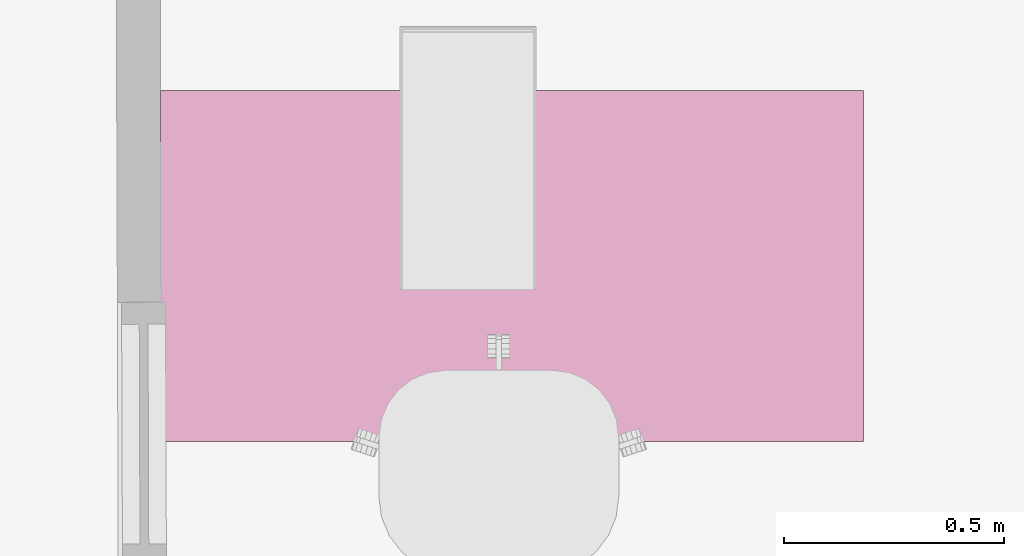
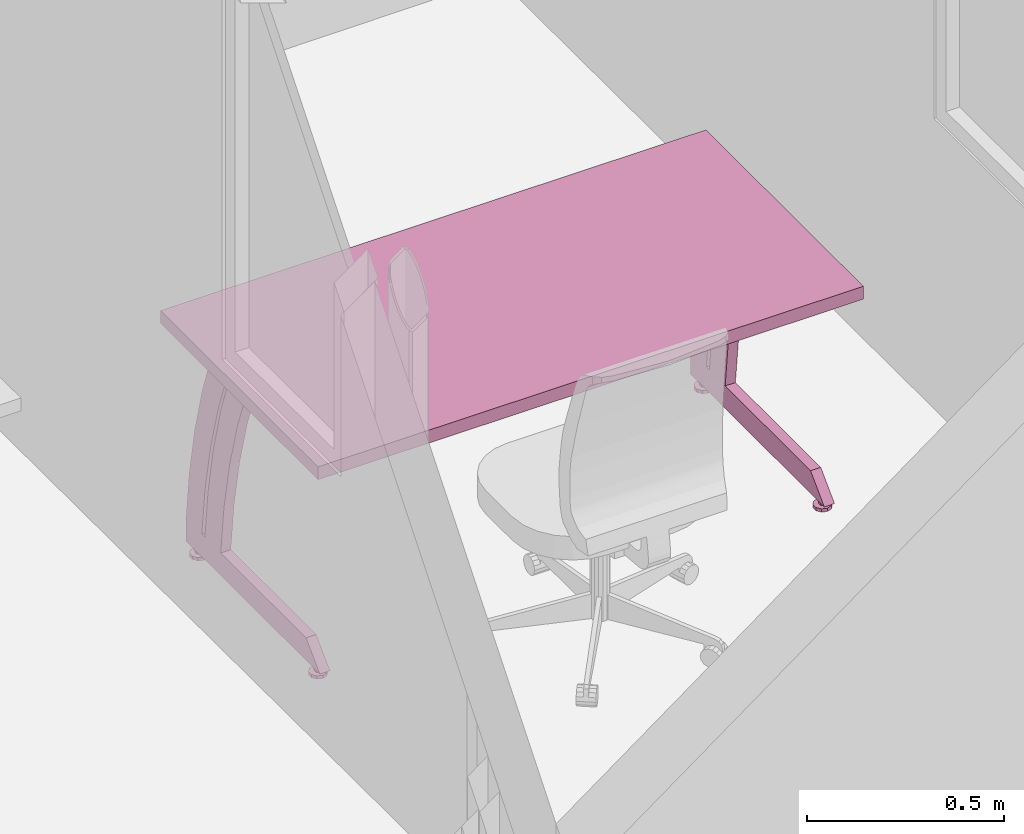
# One storey, part 83 of 128: 1 furnishing.
"""IFC2X3 building model written with IfcOpenShell, lengths in metres."""

from ifc_helpers import new_model, entity, si_unit, converted_unit, derived_unit, direction, frame, origin, place, context, subcontext, project, spatial, faceted_brep, source, transform, mapped, material, type_object, type_shapes, element, save


model = new_model("IFC2X3")

# Units and contexts
model_context = context("Model", 3, precision=1e-05, world=origin(), true_north=direction((6.123031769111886e-17, 1.0)))
body_context = subcontext(model_context, "Body", "Model", "MODEL_VIEW")
ifc_project = project(units=[si_unit("LENGTHUNIT", "METRE"), si_unit("AREAUNIT", "SQUARE_METRE"), converted_unit("PLANEANGLEUNIT", "DEGREE", entity("IfcPlaneAngleMeasure", 0.017453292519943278), si_unit("PLANEANGLEUNIT", "RADIAN"), dimensions=[0, 0, 0, 0, 0, 0, 0]), derived_unit("THERMALTRANSMITTANCEUNIT", [(si_unit("MASSUNIT", "GRAM", prefix="KILO"), 1), (si_unit("THERMODYNAMICTEMPERATUREUNIT", "KELVIN"), -1), (si_unit("TIMEUNIT", "SECOND"), -3)])], contexts=[model_context])

# Site, building, storey
site_placement = place(None, origin())
site = spatial("IfcSite", under=ifc_project, at=site_placement, Name="Default", CompositionType="ELEMENT")
building_placement = place(site_placement, origin())
building = spatial("IfcBuilding", under=site, at=building_placement, CompositionType="ELEMENT")
storey_placement = place(building_placement, origin())
storey = spatial("IfcBuildingStorey", under=building, at=storey_placement, Name="00_RDC CAF", CompositionType="ELEMENT", Elevation=2.4982504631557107e-13)

# Furnishing
ifc_material = material(Name="ARC - Mo - Blanc")
furniture_type = type_object("IfcFurnitureType", Name="Mo_Bureau:Mo_Bureau_1600x800mm", AssemblyPlace="NOTDEFINED", material=ifc_material)
shared_shape = source(origin(), body_context, "Body", "Brep", [
    faceted_brep([(0.05999999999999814, -0.6962325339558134, 0.0), (0.03622358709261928, -0.6885071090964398, 0.0), (0.04076447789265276, -0.6822571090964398, 0.0), (0.04530536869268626, -0.6760071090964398, 0.0), (0.05265268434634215, -0.6736198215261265, 0.0), (0.059999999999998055, -0.6712325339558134, 0.0), (0.06734731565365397, -0.6736198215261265, 0.0), (0.03622358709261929, -0.6962325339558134, 0.0), (0.03622358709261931, -0.7039579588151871, 0.0), (0.04076447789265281, -0.7102079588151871, 0.0), (0.045305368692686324, -0.7164579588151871, 0.0), (0.05265268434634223, -0.7188452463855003, 0.0), (0.05999999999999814, -0.7212325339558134, 0.0), (0.07469463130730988, -0.6760071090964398, 0.0), (0.07923552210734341, -0.6822571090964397, 0.0), (0.08377641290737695, -0.6885071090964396, 0.0), (0.08377641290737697, -0.6962325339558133, 0.0), (0.0673473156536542, -0.7188452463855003, 0.0), (0.07469463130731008, -0.716457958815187, 0.0), (0.07923552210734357, -0.7102079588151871, 0.0), (0.08377641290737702, -0.703957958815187, 0.0), (0.05999999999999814, -0.6962325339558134, 0.024999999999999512), (0.0599999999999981, -0.6862325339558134, 0.024999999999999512), (0.05133974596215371, -0.6912325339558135, 0.024999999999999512), (0.05133974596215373, -0.7012325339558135, 0.024999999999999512), (0.05999999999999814, -0.7062325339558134, 0.024999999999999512), (0.06866025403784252, -0.6912325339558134, 0.024999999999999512), (0.06866025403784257, -0.7012325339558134, 0.024999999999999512), (0.05133974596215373, -0.7012325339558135, 0.010000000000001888), (0.05999999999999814, -0.7062325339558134, 0.010000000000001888), (0.05133974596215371, -0.6912325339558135, 0.010000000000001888), (0.05999999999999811, -0.6862325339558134, 0.010000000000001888), (0.06866025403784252, -0.6912325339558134, 0.010000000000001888), (0.06866025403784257, -0.7012325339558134, 0.010000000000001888), (0.05999999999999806, -0.6712325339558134, 0.010000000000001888), (0.0555460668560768, -0.6726797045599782, 0.010000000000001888), (0.051092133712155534, -0.6741268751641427, 0.010000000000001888), (0.04530536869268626, -0.6760071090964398, 0.010000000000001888), (0.06734731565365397, -0.6736198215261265, 0.010000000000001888), (0.07469463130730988, -0.6760071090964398, 0.010000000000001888), (0.07923552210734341, -0.6822571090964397, 0.010000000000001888), (0.08377641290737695, -0.6885071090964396, 0.010000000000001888), (0.08377641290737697, -0.6962325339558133, 0.010000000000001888), (0.08377641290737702, -0.703957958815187, 0.010000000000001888), (0.07923552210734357, -0.7102079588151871, 0.010000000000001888), (0.07469463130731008, -0.716457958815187, 0.010000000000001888), (0.06890786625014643, -0.7183381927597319, 0.010000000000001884), (0.06445393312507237, -0.7197853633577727, 0.010000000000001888), (0.05999999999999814, -0.7212325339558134, 0.010000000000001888), (0.05265268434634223, -0.7188452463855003, 0.010000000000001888), (0.045305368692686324, -0.7164579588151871, 0.010000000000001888), (0.03622358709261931, -0.7039579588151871, 0.010000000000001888), (0.04076447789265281, -0.7102079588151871, 0.010000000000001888), (0.04076447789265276, -0.6822571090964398, 0.010000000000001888), (0.03622358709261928, -0.6885071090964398, 0.010000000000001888), (0.03622358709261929, -0.6962325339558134, 0.010000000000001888)], [[[0, 1, 2]], [[0, 2, 3]], [[0, 3, 4]], [[0, 4, 5]], [[0, 5, 6]], [[0, 7, 1]], [[0, 8, 7]], [[0, 9, 8]], [[0, 10, 9]], [[0, 11, 10]], [[0, 12, 11]], [[0, 6, 13]], [[0, 13, 14]], [[0, 14, 15]], [[0, 15, 16]], [[0, 17, 12]], [[0, 18, 17]], [[0, 19, 18]], [[0, 20, 19]], [[0, 16, 20]], [[21, 22, 23]], [[23, 24, 21]], [[24, 25, 21]], [[21, 26, 22]], [[25, 27, 21]], [[26, 21, 27]], [[25, 24, 28, 29]], [[24, 23, 30, 28]], [[23, 22, 31, 30]], [[22, 26, 32, 31]], [[26, 27, 33, 32]], [[27, 25, 29, 33]], [[31, 34, 35]], [[31, 35, 36]], [[31, 36, 37]], [[31, 37, 30]], [[31, 38, 34]], [[31, 39, 38]], [[32, 39, 31]], [[32, 40, 39]], [[32, 41, 40]], [[32, 42, 41]], [[32, 43, 42]], [[32, 33, 43]], [[33, 44, 43]], [[33, 45, 44]], [[33, 29, 45]], [[29, 46, 45]], [[29, 47, 46]], [[29, 48, 47]], [[29, 49, 48]], [[29, 50, 49]], [[29, 28, 50]], [[30, 51, 28]], [[28, 51, 52]], [[28, 52, 50]], [[30, 37, 53]], [[30, 53, 54]], [[30, 54, 55]], [[30, 55, 51]], [[11, 12, 48, 49, 50, 10]], [[8, 9, 10, 50, 52, 51]], [[7, 8, 51, 55, 54, 1]], [[3, 37, 36, 35, 34, 5, 4]], [[54, 53, 37, 3, 2, 1]], [[6, 5, 34, 38, 39, 13]], [[15, 14, 13, 39, 40, 41]], [[16, 15, 41, 42, 43, 20]], [[18, 45, 46, 47, 48, 12, 17]], [[43, 44, 45, 18, 19, 20]]]),
    faceted_brep([(0.05999999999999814, -0.09132706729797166, 0.0), (0.03622358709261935, -0.08360164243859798, 0.0), (0.04076447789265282, -0.07735164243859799, 0.0), (0.0453053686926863, -0.07110164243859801, 0.0), (0.05265268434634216, -0.06871435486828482, 0.0), (0.059999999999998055, -0.06632706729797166, 0.0), (0.06734731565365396, -0.06871435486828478, 0.0), (0.03622358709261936, -0.09132706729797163, 0.0), (0.03622358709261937, -0.09905249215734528, 0.0), (0.04076447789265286, -0.10530249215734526, 0.0), (0.04530536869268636, -0.11155249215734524, 0.0), (0.05265268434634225, -0.11393977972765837, 0.0), (0.05999999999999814, -0.11632706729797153, 0.0), (0.07469463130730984, -0.0711016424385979, 0.0), (0.07923552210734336, -0.07735164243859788, 0.0), (0.08377641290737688, -0.08360164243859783, 0.0), (0.0837764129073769, -0.09132706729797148, 0.0), (0.06734731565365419, -0.11393977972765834, 0.0), (0.07469463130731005, -0.11155249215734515, 0.0), (0.07923552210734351, -0.10530249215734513, 0.0), (0.08377641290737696, -0.09905249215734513, 0.0), (0.05999999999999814, -0.09132706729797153, 0.024999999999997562), (0.0599999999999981, -0.08132706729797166, 0.024999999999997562), (0.05133974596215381, -0.08632706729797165, 0.024999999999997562), (0.05133974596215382, -0.09632706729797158, 0.024999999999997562), (0.05999999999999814, -0.10132706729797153, 0.024999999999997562), (0.06866025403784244, -0.0863270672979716, 0.024999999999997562), (0.06866025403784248, -0.09632706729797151, 0.024999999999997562), (0.05133974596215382, -0.09632706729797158, 0.009999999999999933), (0.05999999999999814, -0.10132706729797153, 0.009999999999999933), (0.05133974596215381, -0.08632706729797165, 0.009999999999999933), (0.05999999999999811, -0.08132706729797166, 0.009999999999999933), (0.06866025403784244, -0.0863270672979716, 0.009999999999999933), (0.06866025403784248, -0.09632706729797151, 0.009999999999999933), (0.05999999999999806, -0.06632706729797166, 0.009999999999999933), (0.055546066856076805, -0.06777423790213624, 0.00999999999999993), (0.051092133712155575, -0.06922140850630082, 0.00999999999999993), (0.0453053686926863, -0.07110164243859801, 0.009999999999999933), (0.06734731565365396, -0.06871435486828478, 0.00999999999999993), (0.07469463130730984, -0.0711016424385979, 0.009999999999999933), (0.07923552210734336, -0.07735164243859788, 0.00999999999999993), (0.08377641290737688, -0.08360164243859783, 0.009999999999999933), (0.0837764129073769, -0.09132706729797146, 0.00999999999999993), (0.08377641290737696, -0.09905249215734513, 0.009999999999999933), (0.07923552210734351, -0.10530249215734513, 0.00999999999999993), (0.07469463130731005, -0.11155249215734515, 0.009999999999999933), (0.0689078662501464, -0.11343272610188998, 0.00999999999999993), (0.06445393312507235, -0.11487989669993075, 0.00999999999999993), (0.05999999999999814, -0.11632706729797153, 0.009999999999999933), (0.05265268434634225, -0.11393977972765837, 0.00999999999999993), (0.04530536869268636, -0.11155249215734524, 0.009999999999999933), (0.03622358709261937, -0.09905249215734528, 0.009999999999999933), (0.04076447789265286, -0.10530249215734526, 0.00999999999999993), (0.04076447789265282, -0.07735164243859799, 0.00999999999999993), (0.03622358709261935, -0.08360164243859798, 0.009999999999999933), (0.03622358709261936, -0.09132706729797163, 0.00999999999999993)], [[[0, 1, 2]], [[0, 2, 3]], [[0, 3, 4]], [[0, 4, 5]], [[0, 5, 6]], [[0, 7, 1]], [[0, 8, 7]], [[0, 9, 8]], [[0, 10, 9]], [[0, 11, 10]], [[0, 12, 11]], [[0, 6, 13]], [[0, 13, 14]], [[0, 14, 15]], [[0, 15, 16]], [[0, 17, 12]], [[0, 18, 17]], [[0, 19, 18]], [[0, 20, 19]], [[0, 16, 20]], [[21, 22, 23]], [[23, 24, 21]], [[24, 25, 21]], [[21, 26, 22]], [[25, 27, 21]], [[26, 21, 27]], [[25, 24, 28, 29]], [[24, 23, 30, 28]], [[23, 22, 31, 30]], [[22, 26, 32, 31]], [[26, 27, 33, 32]], [[27, 25, 29, 33]], [[31, 34, 35]], [[31, 35, 36]], [[31, 36, 37]], [[31, 37, 30]], [[31, 38, 34]], [[31, 39, 38]], [[32, 39, 31]], [[32, 40, 39]], [[32, 41, 40]], [[32, 42, 41]], [[32, 43, 42]], [[32, 33, 43]], [[33, 44, 43]], [[33, 45, 44]], [[33, 29, 45]], [[29, 46, 45]], [[29, 47, 46]], [[29, 48, 47]], [[29, 49, 48]], [[29, 50, 49]], [[29, 28, 50]], [[30, 51, 28]], [[28, 51, 52]], [[28, 52, 50]], [[30, 37, 53]], [[30, 53, 54]], [[30, 54, 55]], [[30, 55, 51]], [[11, 12, 48, 49, 50, 10]], [[8, 9, 10, 50, 52, 51]], [[7, 8, 51, 55, 54, 1]], [[3, 37, 36, 35, 34, 5, 4]], [[54, 53, 37, 3, 2, 1]], [[6, 5, 34, 38, 39, 13]], [[15, 14, 13, 39, 40, 41]], [[16, 15, 41, 42, 43, 20]], [[18, 45, 46, 47, 48, 12, 17]], [[43, 44, 45, 18, 19, 20]]]),
    faceted_brep([(0.04499999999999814, -0.22742160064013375, 0.09500000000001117), (0.04499999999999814, -0.24409269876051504, 0.24614112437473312), (0.04499999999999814, -0.2727144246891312, 0.3954808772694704), (0.04499999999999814, -0.313105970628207, 0.542075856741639), (0.04499999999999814, -0.36501217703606, 0.684999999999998), (0.04499999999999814, -0.27887211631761, 0.6849999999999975), (0.04499999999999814, -0.22919246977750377, 0.5416912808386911), (0.04499999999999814, -0.19055436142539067, 0.39501969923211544), (0.04499999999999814, -0.1631815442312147, 0.24583462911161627), (0.04499999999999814, -0.14723253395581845, 0.09500000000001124), (0.07499999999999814, -0.3650121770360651, 0.6850000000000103), (0.07499999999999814, -0.313105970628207, 0.542075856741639), (0.07499999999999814, -0.2727144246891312, 0.3954808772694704), (0.07499999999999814, -0.24409269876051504, 0.24614112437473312), (0.07499999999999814, -0.22742160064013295, 0.09499999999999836), (0.07499999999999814, -0.14723253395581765, 0.09499999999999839), (0.07499999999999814, -0.1631815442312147, 0.24583462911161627), (0.07499999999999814, -0.19055436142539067, 0.39501969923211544), (0.07499999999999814, -0.22919246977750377, 0.5416912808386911), (0.07499999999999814, -0.2788721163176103, 0.684999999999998)], [[[0, 1, 2, 3, 4, 5, 6, 7, 8, 9]], [[10, 11, 12, 13, 14, 15, 16, 17, 18, 19]], [[10, 19, 5, 4]], [[3, 11, 10, 4]], [[2, 12, 11, 3]], [[0, 14, 13, 1]], [[12, 2, 1, 13]], [[15, 14, 0, 9]], [[8, 7, 17, 16]], [[15, 9, 8, 16]], [[6, 5, 19, 18]], [[6, 18, 17, 7]]]),
    faceted_brep([(0.04499999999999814, -0.1314216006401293, 0.09500000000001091), (0.04499999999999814, -0.1480926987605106, 0.24614112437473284), (0.04499999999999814, -0.17671442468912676, 0.3954808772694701), (0.04499999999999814, -0.21710597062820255, 0.5420758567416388), (0.04499999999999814, -0.2690121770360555, 0.6849999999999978), (0.04499999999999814, -0.18287211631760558, 0.6849999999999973), (0.04499999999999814, -0.13319246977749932, 0.5416912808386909), (0.04499999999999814, -0.09455436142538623, 0.39501969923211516), (0.04499999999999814, -0.06718154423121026, 0.24583462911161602), (0.04499999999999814, -0.05123253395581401, 0.09500000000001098), (0.07499999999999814, -0.2690121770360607, 0.6850000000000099), (0.07499999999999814, -0.21710597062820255, 0.5420758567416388), (0.07499999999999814, -0.17671442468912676, 0.3954808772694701), (0.07499999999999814, -0.1480926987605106, 0.24614112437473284), (0.07499999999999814, -0.1314216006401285, 0.09499999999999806), (0.07499999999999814, -0.051232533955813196, 0.09499999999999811), (0.07499999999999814, -0.06718154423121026, 0.24583462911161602), (0.07499999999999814, -0.09455436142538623, 0.39501969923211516), (0.07499999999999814, -0.13319246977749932, 0.5416912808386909), (0.07499999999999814, -0.18287211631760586, 0.6849999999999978)], [[[0, 1, 2, 3, 4, 5, 6, 7, 8, 9]], [[10, 11, 12, 13, 14, 15, 16, 17, 18, 19]], [[10, 19, 5, 4]], [[3, 11, 10, 4]], [[2, 12, 11, 3]], [[0, 14, 13, 1]], [[12, 2, 1, 13]], [[15, 14, 0, 9]], [[8, 7, 17, 16]], [[15, 9, 8, 16]], [[6, 5, 19, 18]], [[6, 18, 17, 7]]]),
    faceted_brep([(0.04499999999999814, -0.05123253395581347, 0.024999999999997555), (0.04499999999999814, -0.7312325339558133, 0.024999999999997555), (0.04499999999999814, -0.6612325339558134, 0.09499999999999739), (0.04499999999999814, -0.05123253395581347, 0.09499999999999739), (0.07499999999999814, -0.05123253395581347, 0.024999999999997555), (0.07499999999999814, -0.05123253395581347, 0.09499999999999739), (0.07499999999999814, -0.6612325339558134, 0.09499999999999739), (0.07499999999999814, -0.7312325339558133, 0.024999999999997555)], [[[0, 1, 2, 3]], [[4, 5, 6, 7]], [[5, 4, 0, 3]], [[6, 5, 3, 2]], [[4, 7, 1, 0]], [[7, 6, 2, 1]]]),
    faceted_brep([(1.5399999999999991, -0.6962325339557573, 0.0), (1.5162235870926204, -0.6885071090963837, 0.0), (1.5207644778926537, -0.6822571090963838, 0.0), (1.5253053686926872, -0.6760071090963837, 0.0), (1.532652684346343, -0.6736198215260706, 0.0), (1.5399999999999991, -0.6712325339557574, 0.0), (1.547347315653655, -0.6736198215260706, 0.0), (1.5162235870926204, -0.6962325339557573, 0.0), (1.5162235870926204, -0.7039579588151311, 0.0), (1.5207644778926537, -0.710207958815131, 0.0), (1.5253053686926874, -0.7164579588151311, 0.0), (1.5326526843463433, -0.7188452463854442, 0.0), (1.5399999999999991, -0.7212325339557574, 0.0), (1.554694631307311, -0.6760071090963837, 0.0), (1.5592355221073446, -0.6822571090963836, 0.0), (1.563776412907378, -0.6885071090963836, 0.0), (1.563776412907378, -0.6962325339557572, 0.0), (1.5473473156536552, -0.7188452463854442, 0.0), (1.5546946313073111, -0.716457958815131, 0.0), (1.5592355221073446, -0.710207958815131, 0.0), (1.563776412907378, -0.7039579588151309, 0.0), (1.5399999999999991, -0.6962325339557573, 0.024999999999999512), (1.5399999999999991, -0.6862325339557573, 0.024999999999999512), (1.5313397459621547, -0.6912325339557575, 0.024999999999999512), (1.5313397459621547, -0.7012325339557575, 0.024999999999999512), (1.5399999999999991, -0.7062325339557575, 0.024999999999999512), (1.5486602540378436, -0.6912325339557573, 0.024999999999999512), (1.5486602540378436, -0.7012325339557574, 0.024999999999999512), (1.5313397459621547, -0.7012325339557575, 0.010000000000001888), (1.5399999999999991, -0.7062325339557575, 0.010000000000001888), (1.5313397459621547, -0.6912325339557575, 0.010000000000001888), (1.5399999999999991, -0.6862325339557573, 0.010000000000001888), (1.5486602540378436, -0.6912325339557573, 0.010000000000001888), (1.5486602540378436, -0.7012325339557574, 0.010000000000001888), (1.5399999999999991, -0.6712325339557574, 0.010000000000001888), (1.5355460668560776, -0.672679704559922, 0.010000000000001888), (1.5310921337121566, -0.6741268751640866, 0.010000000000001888), (1.5253053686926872, -0.6760071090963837, 0.010000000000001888), (1.547347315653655, -0.6736198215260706, 0.010000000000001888), (1.554694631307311, -0.6760071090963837, 0.010000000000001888), (1.5592355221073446, -0.6822571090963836, 0.010000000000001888), (1.563776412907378, -0.6885071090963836, 0.010000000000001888), (1.563776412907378, -0.6962325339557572, 0.010000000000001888), (1.563776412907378, -0.7039579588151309, 0.010000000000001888), (1.5592355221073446, -0.710207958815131, 0.010000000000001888), (1.5546946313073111, -0.716457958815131, 0.010000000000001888), (1.5489078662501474, -0.7183381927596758, 0.010000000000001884), (1.5444539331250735, -0.7197853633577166, 0.010000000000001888), (1.5399999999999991, -0.7212325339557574, 0.010000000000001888), (1.5326526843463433, -0.7188452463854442, 0.010000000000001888), (1.5253053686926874, -0.7164579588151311, 0.010000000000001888), (1.5162235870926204, -0.7039579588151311, 0.010000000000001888), (1.5207644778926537, -0.710207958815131, 0.010000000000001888), (1.5207644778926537, -0.6822571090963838, 0.010000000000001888), (1.5162235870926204, -0.6885071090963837, 0.010000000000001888), (1.5162235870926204, -0.6962325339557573, 0.010000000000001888)], [[[0, 1, 2]], [[0, 2, 3]], [[0, 3, 4]], [[0, 4, 5]], [[0, 5, 6]], [[0, 7, 1]], [[0, 8, 7]], [[0, 9, 8]], [[0, 10, 9]], [[0, 11, 10]], [[0, 12, 11]], [[0, 6, 13]], [[0, 13, 14]], [[0, 14, 15]], [[0, 15, 16]], [[0, 17, 12]], [[0, 18, 17]], [[0, 19, 18]], [[0, 20, 19]], [[0, 16, 20]], [[21, 22, 23]], [[23, 24, 21]], [[24, 25, 21]], [[21, 26, 22]], [[25, 27, 21]], [[26, 21, 27]], [[25, 24, 28, 29]], [[24, 23, 30, 28]], [[23, 22, 31, 30]], [[22, 26, 32, 31]], [[26, 27, 33, 32]], [[27, 25, 29, 33]], [[31, 34, 35]], [[31, 35, 36]], [[31, 36, 37]], [[31, 37, 30]], [[31, 38, 34]], [[31, 39, 38]], [[32, 39, 31]], [[32, 40, 39]], [[32, 41, 40]], [[32, 42, 41]], [[32, 43, 42]], [[32, 33, 43]], [[33, 44, 43]], [[33, 45, 44]], [[33, 29, 45]], [[29, 46, 45]], [[29, 47, 46]], [[29, 48, 47]], [[29, 49, 48]], [[29, 50, 49]], [[29, 28, 50]], [[30, 51, 28]], [[28, 51, 52]], [[28, 52, 50]], [[30, 37, 53]], [[30, 53, 54]], [[30, 54, 55]], [[30, 55, 51]], [[11, 12, 48, 49, 50, 10]], [[8, 9, 10, 50, 52, 51]], [[7, 8, 51, 55, 54, 1]], [[3, 37, 36, 35, 34, 5, 4]], [[54, 53, 37, 3, 2, 1]], [[6, 5, 34, 38, 39, 13]], [[15, 14, 13, 39, 40, 41]], [[16, 15, 41, 42, 43, 20]], [[18, 45, 46, 47, 48, 12, 17]], [[43, 44, 45, 18, 19, 20]]]),
    faceted_brep([(1.5399999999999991, -0.09132706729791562, 0.0), (1.5162235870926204, -0.08360164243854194, 0.0), (1.5207644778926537, -0.07735164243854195, 0.0), (1.5253053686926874, -0.07110164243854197, 0.0), (1.5326526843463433, -0.06871435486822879, 0.0), (1.5399999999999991, -0.06632706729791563, 0.0), (1.547347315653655, -0.06871435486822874, 0.0), (1.5162235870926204, -0.09132706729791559, 0.0), (1.5162235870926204, -0.09905249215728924, 0.0), (1.5207644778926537, -0.10530249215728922, 0.0), (1.5253053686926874, -0.1115524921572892, 0.0), (1.5326526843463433, -0.11393977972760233, 0.0), (1.5399999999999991, -0.11632706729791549, 0.0), (1.554694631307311, -0.07110164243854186, 0.0), (1.5592355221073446, -0.07735164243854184, 0.0), (1.563776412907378, -0.08360164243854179, 0.0), (1.563776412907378, -0.09132706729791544, 0.0), (1.5473473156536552, -0.1139397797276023, 0.0), (1.5546946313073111, -0.11155249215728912, 0.0), (1.5592355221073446, -0.1053024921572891, 0.0), (1.563776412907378, -0.09905249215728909, 0.0), (1.5399999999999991, -0.0913270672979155, 0.024999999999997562), (1.5399999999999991, -0.08132706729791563, 0.024999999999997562), (1.531339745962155, -0.08632706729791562, 0.024999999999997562), (1.531339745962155, -0.09632706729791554, 0.024999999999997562), (1.5399999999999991, -0.10132706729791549, 0.024999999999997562), (1.5486602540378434, -0.08632706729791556, 0.024999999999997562), (1.5486602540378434, -0.09632706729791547, 0.024999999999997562), (1.531339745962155, -0.09632706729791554, 0.009999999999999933), (1.5399999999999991, -0.10132706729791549, 0.009999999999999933), (1.531339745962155, -0.08632706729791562, 0.009999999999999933), (1.5399999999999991, -0.08132706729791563, 0.009999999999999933), (1.5486602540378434, -0.08632706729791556, 0.009999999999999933), (1.5486602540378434, -0.09632706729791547, 0.009999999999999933), (1.5399999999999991, -0.06632706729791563, 0.009999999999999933), (1.5355460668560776, -0.0677742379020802, 0.00999999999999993), (1.5310921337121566, -0.06922140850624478, 0.00999999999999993), (1.5253053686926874, -0.07110164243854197, 0.009999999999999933), (1.547347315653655, -0.06871435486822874, 0.00999999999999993), (1.554694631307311, -0.07110164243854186, 0.009999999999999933), (1.5592355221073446, -0.07735164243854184, 0.00999999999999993), (1.563776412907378, -0.08360164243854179, 0.009999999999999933), (1.563776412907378, -0.09132706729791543, 0.00999999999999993), (1.563776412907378, -0.09905249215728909, 0.009999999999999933), (1.5592355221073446, -0.1053024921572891, 0.00999999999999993), (1.5546946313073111, -0.11155249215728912, 0.009999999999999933), (1.5489078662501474, -0.11343272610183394, 0.00999999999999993), (1.5444539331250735, -0.11487989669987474, 0.00999999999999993), (1.5399999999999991, -0.11632706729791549, 0.009999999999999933), (1.5326526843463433, -0.11393977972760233, 0.00999999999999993), (1.5253053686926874, -0.1115524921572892, 0.009999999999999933), (1.5162235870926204, -0.09905249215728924, 0.009999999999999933), (1.5207644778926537, -0.10530249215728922, 0.00999999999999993), (1.5207644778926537, -0.07735164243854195, 0.00999999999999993), (1.5162235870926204, -0.08360164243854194, 0.009999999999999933), (1.5162235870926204, -0.09132706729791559, 0.00999999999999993)], [[[0, 1, 2]], [[0, 2, 3]], [[0, 3, 4]], [[0, 4, 5]], [[0, 5, 6]], [[0, 7, 1]], [[0, 8, 7]], [[0, 9, 8]], [[0, 10, 9]], [[0, 11, 10]], [[0, 12, 11]], [[0, 6, 13]], [[0, 13, 14]], [[0, 14, 15]], [[0, 15, 16]], [[0, 17, 12]], [[0, 18, 17]], [[0, 19, 18]], [[0, 20, 19]], [[0, 16, 20]], [[21, 22, 23]], [[23, 24, 21]], [[24, 25, 21]], [[21, 26, 22]], [[25, 27, 21]], [[26, 21, 27]], [[25, 24, 28, 29]], [[24, 23, 30, 28]], [[23, 22, 31, 30]], [[22, 26, 32, 31]], [[26, 27, 33, 32]], [[27, 25, 29, 33]], [[31, 34, 35]], [[31, 35, 36]], [[31, 36, 37]], [[31, 37, 30]], [[31, 38, 34]], [[31, 39, 38]], [[32, 39, 31]], [[32, 40, 39]], [[32, 41, 40]], [[32, 42, 41]], [[32, 43, 42]], [[32, 33, 43]], [[33, 44, 43]], [[33, 45, 44]], [[33, 29, 45]], [[29, 46, 45]], [[29, 47, 46]], [[29, 48, 47]], [[29, 49, 48]], [[29, 50, 49]], [[29, 28, 50]], [[30, 51, 28]], [[28, 51, 52]], [[28, 52, 50]], [[30, 37, 53]], [[30, 53, 54]], [[30, 54, 55]], [[30, 55, 51]], [[11, 12, 48, 49, 50, 10]], [[8, 9, 10, 50, 52, 51]], [[7, 8, 51, 55, 54, 1]], [[3, 37, 36, 35, 34, 5, 4]], [[54, 53, 37, 3, 2, 1]], [[6, 5, 34, 38, 39, 13]], [[15, 14, 13, 39, 40, 41]], [[16, 15, 41, 42, 43, 20]], [[18, 45, 46, 47, 48, 12, 17]], [[43, 44, 45, 18, 19, 20]]]),
    faceted_brep([(1.524999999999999, -0.22742160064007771, 0.09500000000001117), (1.524999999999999, -0.244092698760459, 0.24614112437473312), (1.524999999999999, -0.27271442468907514, 0.3954808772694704), (1.524999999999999, -0.31310597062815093, 0.542075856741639), (1.524999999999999, -0.3650121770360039, 0.684999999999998), (1.524999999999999, -0.278872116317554, 0.6849999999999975), (1.524999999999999, -0.22919246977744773, 0.5416912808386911), (1.524999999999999, -0.19055436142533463, 0.39501969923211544), (1.524999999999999, -0.16318154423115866, 0.24583462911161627), (1.524999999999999, -0.1472325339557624, 0.09500000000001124), (1.5549999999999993, -0.3650121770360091, 0.6850000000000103), (1.5549999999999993, -0.31310597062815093, 0.542075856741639), (1.5549999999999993, -0.27271442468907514, 0.3954808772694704), (1.5549999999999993, -0.244092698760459, 0.24614112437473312), (1.5549999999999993, -0.2274216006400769, 0.09499999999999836), (1.5549999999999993, -0.1472325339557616, 0.09499999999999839), (1.5549999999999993, -0.16318154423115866, 0.24583462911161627), (1.5549999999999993, -0.19055436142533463, 0.39501969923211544), (1.5549999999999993, -0.22919246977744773, 0.5416912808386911), (1.5549999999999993, -0.27887211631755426, 0.684999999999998)], [[[0, 1, 2, 3, 4, 5, 6, 7, 8, 9]], [[10, 11, 12, 13, 14, 15, 16, 17, 18, 19]], [[10, 19, 5, 4]], [[3, 11, 10, 4]], [[2, 12, 11, 3]], [[0, 14, 13, 1]], [[12, 2, 1, 13]], [[15, 14, 0, 9]], [[8, 7, 17, 16]], [[15, 9, 8, 16]], [[6, 5, 19, 18]], [[6, 18, 17, 7]]]),
    faceted_brep([(1.524999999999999, -0.13142160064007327, 0.09500000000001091), (1.524999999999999, -0.14809269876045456, 0.24614112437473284), (1.524999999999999, -0.17671442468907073, 0.3954808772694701), (1.524999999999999, -0.21710597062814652, 0.5420758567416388), (1.524999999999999, -0.2690121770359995, 0.6849999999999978), (1.524999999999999, -0.18287211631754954, 0.6849999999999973), (1.524999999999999, -0.13319246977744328, 0.5416912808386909), (1.524999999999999, -0.09455436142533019, 0.39501969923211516), (1.524999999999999, -0.06718154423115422, 0.24583462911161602), (1.524999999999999, -0.05123253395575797, 0.09500000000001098), (1.5549999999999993, -0.2690121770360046, 0.6850000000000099), (1.5549999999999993, -0.21710597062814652, 0.5420758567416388), (1.5549999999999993, -0.17671442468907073, 0.3954808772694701), (1.5549999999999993, -0.14809269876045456, 0.24614112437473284), (1.5549999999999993, -0.13142160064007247, 0.09499999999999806), (1.5549999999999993, -0.05123253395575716, 0.09499999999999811), (1.5549999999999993, -0.06718154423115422, 0.24583462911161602), (1.5549999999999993, -0.09455436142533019, 0.39501969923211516), (1.5549999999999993, -0.13319246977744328, 0.5416912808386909), (1.5549999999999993, -0.18287211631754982, 0.6849999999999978)], [[[0, 1, 2, 3, 4, 5, 6, 7, 8, 9]], [[10, 11, 12, 13, 14, 15, 16, 17, 18, 19]], [[10, 19, 5, 4]], [[3, 11, 10, 4]], [[2, 12, 11, 3]], [[0, 14, 13, 1]], [[12, 2, 1, 13]], [[15, 14, 0, 9]], [[8, 7, 17, 16]], [[15, 9, 8, 16]], [[6, 5, 19, 18]], [[6, 18, 17, 7]]]),
    faceted_brep([(1.524999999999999, -0.05123253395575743, 0.024999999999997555), (1.524999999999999, -0.7312325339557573, 0.024999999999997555), (1.524999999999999, -0.6612325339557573, 0.09499999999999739), (1.524999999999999, -0.05123253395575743, 0.09499999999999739), (1.5549999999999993, -0.05123253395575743, 0.024999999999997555), (1.5549999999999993, -0.05123253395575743, 0.09499999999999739), (1.5549999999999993, -0.6612325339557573, 0.09499999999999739), (1.5549999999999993, -0.7312325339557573, 0.024999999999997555)], [[[0, 1, 2, 3]], [[4, 5, 6, 7]], [[5, 4, 0, 3]], [[6, 5, 3, 2]], [[4, 7, 1, 0]], [[7, 6, 2, 1]]]),
    faceted_brep([(0.0, -0.7999999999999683, 0.685), (0.0, 0.0, 0.685), (1.5999999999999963, 0.0, 0.684999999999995), (1.5999999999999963, -0.7999999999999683, 0.684999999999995), (0.0, -0.7999999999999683, 0.7250000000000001), (1.5999999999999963, -0.7999999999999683, 0.7249999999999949), (1.5999999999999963, 0.0, 0.7249999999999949), (0.0, 0.0, 0.7250000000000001)], [[[0, 1, 2, 3]], [[4, 5, 6, 7]], [[5, 4, 0, 3]], [[6, 5, 3, 2]], [[7, 6, 2, 1]], [[4, 7, 1, 0]]]),
])
type_shapes(furniture_type, [shared_shape])
furnishing_placement = place(storey_placement, frame((13.317827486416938, 133.26534749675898, 0.0)))
element("IfcFurnishingElement", 1, at=furnishing_placement, inside=storey, type_object=furniture_type, material=ifc_material, Name="Mo_Bureau:Mo_Bureau_1600x800mm", ObjectType="Mo_Bureau:Mo_Bureau_1600x800mm", context=body_context, shape_type="MappedRepresentation", body=[
    mapped(shared_shape, transform((0.0, 0.0, 0.0), scale=1.0)),
])

save(model, "model.ifc")
